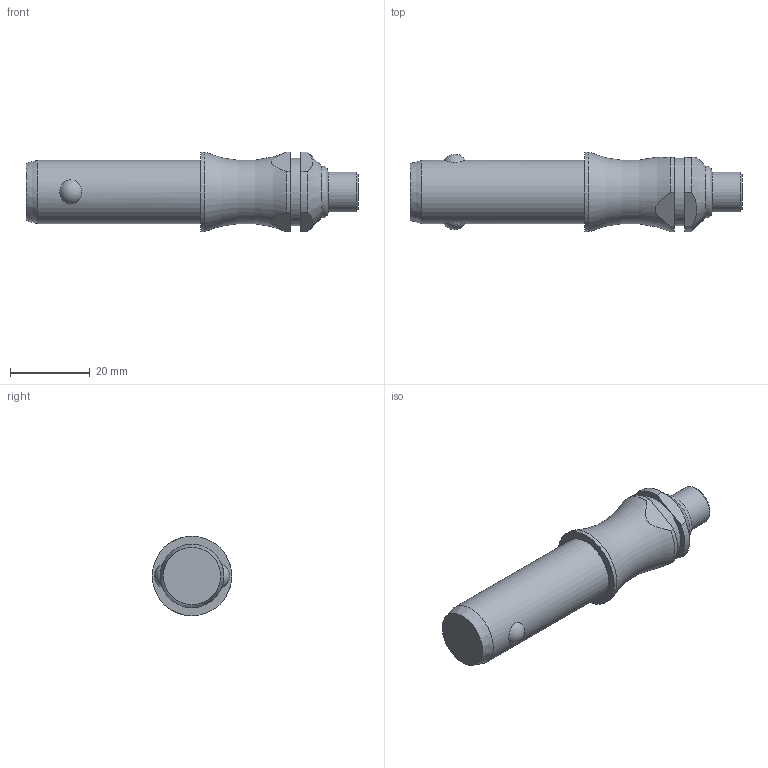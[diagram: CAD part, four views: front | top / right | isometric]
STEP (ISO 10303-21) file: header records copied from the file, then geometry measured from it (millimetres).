
FILE_DESCRIPTION( ( 'STEP AP203' ), '1' );
FILE_NAME( 'C:/Temp/Ganter_Step_05_03_2020/data/3_1/gn113_3/Stainless Steel-Ball lock pin GN 113.3-16-30 (deactivated).stp', '2020-03-12T08:18:50', ( 'License CC BY-ND 4.0' ), ( 'CADENAS' ), ' ', 'PARTsolutions', ' ' );
FILE_SCHEMA( ( 'CONFIG_CONTROL_DESIGN' ) );
Length unit declared in the file: millimetre
Products named in the file (1): _Stainless Steel-Ball lock pin GN 113.3-16-30 (deactivated)
Bounding box: 83.5 x 20 x 20 mm (x, y, z)
Volume: 16795.9 mm3; surface area: 4771.7 mm2
Topology: 1 solids, 1 shells, 28 faces, 60 edges, 39 vertices
Faces by surface type: plane 11, cylinder 10, cone 3, torus 2, sphere 2
Full cylindrical faces by diameter (mm): 10 x1, 16 x1, 17 x1, 20 x1
Entity records: 966 total; most frequent: CARTESIAN_POINT 350, DIRECTION 122, ORIENTED_EDGE 98, AXIS2_PLACEMENT_3D 52, EDGE_CURVE 49, EDGE_LOOP 42, VERTEX_POINT 38, FACE_OUTER_BOUND 34
